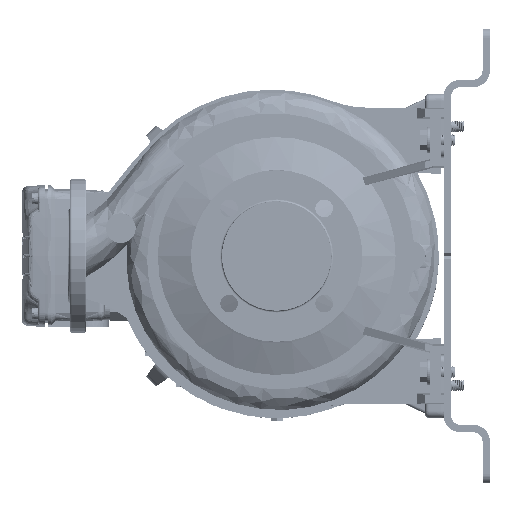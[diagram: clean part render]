
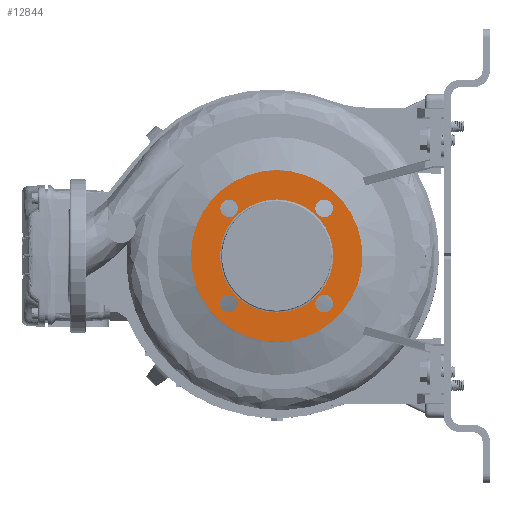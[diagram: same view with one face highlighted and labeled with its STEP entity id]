
A CAD part, left-side view. The second image highlights one B-rep face of the part: STEP entity #12844.
In plain terms, the highlighted planar face has unit normal (-1, 0, 0).
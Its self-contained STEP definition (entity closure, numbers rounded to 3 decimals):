
#1302 = AXIS2_PLACEMENT_3D ( 'NONE', #86856, #50359, #161048 ) ;
#2406 = FACE_BOUND ( 'NONE', #171912, .T. ) ;
#4221 = VERTEX_POINT ( 'NONE', #96912 ) ;
#4814 = AXIS2_PLACEMENT_3D ( 'NONE', #84363, #214510, #193853 ) ;
#5152 = VERTEX_POINT ( 'NONE', #94605 ) ;
#10151 = AXIS2_PLACEMENT_3D ( 'NONE', #157229, #183508, #16900 ) ;
#12479 = ORIENTED_EDGE ( 'NONE', *, *, #221740, .T. ) ;
#12844 = ADVANCED_FACE ( 'NONE', ( #114319, #44867, #137332, #77786, #2406, #134975 ), #188454, .T. ) ;
#13056 = CARTESIAN_POINT ( 'NONE',  ( -145.897, 282.788, 297.627 ) ) ;
#16900 = DIRECTION ( 'NONE',  ( 0., 0., 1. ) ) ;
#17526 = DIRECTION ( 'NONE',  ( 0., 1., 0. ) ) ;
#21430 = CARTESIAN_POINT ( 'NONE',  ( -145.897, 170.758, 297.627 ) ) ;
#22457 = CARTESIAN_POINT ( 'NONE',  ( -145.897, 282.788, 307.127 ) ) ;
#24881 = EDGE_CURVE ( 'NONE', #112761, #194698, #68688, .T. ) ;
#24924 = DIRECTION ( 'NONE',  ( -1., 0., 0. ) ) ;
#26604 = AXIS2_PLACEMENT_3D ( 'NONE', #49386, #197781, #33533 ) ;
#28585 = DIRECTION ( 'NONE',  ( 0., 1., 0. ) ) ;
#30476 = EDGE_LOOP ( 'NONE', ( #95687, #148516 ) ) ;
#30877 = CIRCLE ( 'NONE', #128076, 61. ) ;
#33533 = DIRECTION ( 'NONE',  ( 0., 0., -1. ) ) ;
#34839 = VERTEX_POINT ( 'NONE', #22457 ) ;
#37897 = ORIENTED_EDGE ( 'NONE', *, *, #42065, .F. ) ;
#38695 = AXIS2_PLACEMENT_3D ( 'NONE', #212147, #24924, #232775 ) ;
#42065 = EDGE_CURVE ( 'NONE', #167874, #34839, #117445, .T. ) ;
#43739 = CIRCLE ( 'NONE', #4814, 92.5 ) ;
#44867 = FACE_BOUND ( 'NONE', #145126, .T. ) ;
#49386 = CARTESIAN_POINT ( 'NONE',  ( -145.897, 180.258, 400.158 ) ) ;
#50359 = DIRECTION ( 'NONE',  ( 1., 0., 0. ) ) ;
#53864 = DIRECTION ( 'NONE',  ( 1., 0., 0. ) ) ;
#53904 = CARTESIAN_POINT ( 'NONE',  ( -145.897, 180.258, 390.658 ) ) ;
#55799 = VERTEX_POINT ( 'NONE', #119939 ) ;
#57204 = AXIS2_PLACEMENT_3D ( 'NONE', #102020, #120222, #140870 ) ;
#58103 = CIRCLE ( 'NONE', #77527, 9.5 ) ;
#63901 = EDGE_CURVE ( 'NONE', #34839, #167874, #204301, .T. ) ;
#64525 = VERTEX_POINT ( 'NONE', #21430 ) ;
#68688 = CIRCLE ( 'NONE', #177541, 92.5 ) ;
#69650 = EDGE_CURVE ( 'NONE', #4221, #137101, #135011, .T. ) ;
#74494 = DIRECTION ( 'NONE',  ( 0., 0., -1. ) ) ;
#77527 = AXIS2_PLACEMENT_3D ( 'NONE', #195708, #142145, #137355 ) ;
#77786 = FACE_BOUND ( 'NONE', #129260, .T. ) ;
#81037 = VERTEX_POINT ( 'NONE', #222716 ) ;
#84253 = CIRCLE ( 'NONE', #142597, 9.5 ) ;
#84363 = CARTESIAN_POINT ( 'NONE',  ( -145.897, 231.523, 348.893 ) ) ;
#86856 = CARTESIAN_POINT ( 'NONE',  ( -145.897, 231.523, 348.893 ) ) ;
#89332 = DIRECTION ( 'NONE',  ( -1., 0., 0. ) ) ;
#91552 = CARTESIAN_POINT ( 'NONE',  ( -145.897, 231.523, 348.893 ) ) ;
#91807 = ORIENTED_EDGE ( 'NONE', *, *, #63901, .F. ) ;
#93374 = EDGE_LOOP ( 'NONE', ( #91807, #37897 ) ) ;
#94605 = CARTESIAN_POINT ( 'NONE',  ( -145.897, 189.758, 297.627 ) ) ;
#95687 = ORIENTED_EDGE ( 'NONE', *, *, #136193, .F. ) ;
#96912 = CARTESIAN_POINT ( 'NONE',  ( -145.897, 292.288, 400.158 ) ) ;
#101292 = EDGE_CURVE ( 'NONE', #181219, #81037, #200478, .T. ) ;
#102020 = CARTESIAN_POINT ( 'NONE',  ( -145.897, 282.788, 400.158 ) ) ;
#103670 = ORIENTED_EDGE ( 'NONE', *, *, #203605, .F. ) ;
#106206 = CIRCLE ( 'NONE', #1302, 61. ) ;
#107932 = DIRECTION ( 'NONE',  ( -1., 0., 0. ) ) ;
#108930 = ORIENTED_EDGE ( 'NONE', *, *, #69650, .F. ) ;
#111052 = AXIS2_PLACEMENT_3D ( 'NONE', #151087, #220482, #74494 ) ;
#112761 = VERTEX_POINT ( 'NONE', #235428 ) ;
#113993 = ORIENTED_EDGE ( 'NONE', *, *, #193689, .F. ) ;
#114319 = FACE_BOUND ( 'NONE', #93374, .T. ) ;
#116449 = EDGE_CURVE ( 'NONE', #5152, #64525, #58103, .T. ) ;
#117445 = CIRCLE ( 'NONE', #132931, 9.5 ) ;
#119236 = CARTESIAN_POINT ( 'NONE',  ( -145.897, 282.788, 288.127 ) ) ;
#119784 = CIRCLE ( 'NONE', #26604, 9.5 ) ;
#119939 = CARTESIAN_POINT ( 'NONE',  ( -145.897, 292.523, 348.893 ) ) ;
#120222 = DIRECTION ( 'NONE',  ( -1., 0., 0. ) ) ;
#120965 = AXIS2_PLACEMENT_3D ( 'NONE', #235710, #143329, #232129 ) ;
#128065 = DIRECTION ( 'NONE',  ( 0., 1., 0. ) ) ;
#128076 = AXIS2_PLACEMENT_3D ( 'NONE', #140456, #159928, #28585 ) ;
#129260 = EDGE_LOOP ( 'NONE', ( #135936, #108930 ) ) ;
#130668 = EDGE_LOOP ( 'NONE', ( #113993, #139692 ) ) ;
#132931 = AXIS2_PLACEMENT_3D ( 'NONE', #13056, #107932, #163852 ) ;
#134975 = FACE_OUTER_BOUND ( 'NONE', #130668, .T. ) ;
#135011 = CIRCLE ( 'NONE', #57204, 9.5 ) ;
#135936 = ORIENTED_EDGE ( 'NONE', *, *, #137477, .F. ) ;
#136193 = EDGE_CURVE ( 'NONE', #81037, #181219, #119784, .T. ) ;
#137101 = VERTEX_POINT ( 'NONE', #206483 ) ;
#137332 = FACE_BOUND ( 'NONE', #30476, .T. ) ;
#137355 = DIRECTION ( 'NONE',  ( 0., 1., 0. ) ) ;
#137477 = EDGE_CURVE ( 'NONE', #137101, #4221, #170867, .T. ) ;
#137956 = VERTEX_POINT ( 'NONE', #142481 ) ;
#139692 = ORIENTED_EDGE ( 'NONE', *, *, #24881, .F. ) ;
#140456 = CARTESIAN_POINT ( 'NONE',  ( -145.897, 231.523, 348.893 ) ) ;
#140870 = DIRECTION ( 'NONE',  ( 0., -1., 0. ) ) ;
#142145 = DIRECTION ( 'NONE',  ( -1., 0., 0. ) ) ;
#142481 = CARTESIAN_POINT ( 'NONE',  ( -145.897, 170.523, 348.893 ) ) ;
#142597 = AXIS2_PLACEMENT_3D ( 'NONE', #147652, #89332, #17526 ) ;
#143329 = DIRECTION ( 'NONE',  ( -1., 0., 0. ) ) ;
#145126 = EDGE_LOOP ( 'NONE', ( #103670, #207998 ) ) ;
#147652 = CARTESIAN_POINT ( 'NONE',  ( -145.897, 180.258, 297.627 ) ) ;
#148516 = ORIENTED_EDGE ( 'NONE', *, *, #101292, .F. ) ;
#151087 = CARTESIAN_POINT ( 'NONE',  ( -145.897, 180.258, 400.158 ) ) ;
#157229 = CARTESIAN_POINT ( 'NONE',  ( -145.897, 282.788, 297.627 ) ) ;
#159928 = DIRECTION ( 'NONE',  ( 1., 0., 0. ) ) ;
#161048 = DIRECTION ( 'NONE',  ( 0., 1., 0. ) ) ;
#163852 = DIRECTION ( 'NONE',  ( 0., 0., 1. ) ) ;
#167874 = VERTEX_POINT ( 'NONE', #119236 ) ;
#170867 = CIRCLE ( 'NONE', #38695, 9.5 ) ;
#171912 = EDGE_LOOP ( 'NONE', ( #195331, #12479 ) ) ;
#177541 = AXIS2_PLACEMENT_3D ( 'NONE', #91552, #53864, #128065 ) ;
#181219 = VERTEX_POINT ( 'NONE', #53904 ) ;
#183508 = DIRECTION ( 'NONE',  ( -1., 0., 0. ) ) ;
#188454 = PLANE ( 'NONE',  #120965 ) ;
#192649 = CARTESIAN_POINT ( 'NONE',  ( -145.897, 324.023, 348.893 ) ) ;
#193689 = EDGE_CURVE ( 'NONE', #194698, #112761, #43739, .T. ) ;
#193853 = DIRECTION ( 'NONE',  ( 0., 1., 0. ) ) ;
#194698 = VERTEX_POINT ( 'NONE', #192649 ) ;
#195331 = ORIENTED_EDGE ( 'NONE', *, *, #227534, .T. ) ;
#195708 = CARTESIAN_POINT ( 'NONE',  ( -145.897, 180.258, 297.627 ) ) ;
#197781 = DIRECTION ( 'NONE',  ( -1., 0., 0. ) ) ;
#200478 = CIRCLE ( 'NONE', #111052, 9.5 ) ;
#203605 = EDGE_CURVE ( 'NONE', #64525, #5152, #84253, .T. ) ;
#204301 = CIRCLE ( 'NONE', #10151, 9.5 ) ;
#206483 = CARTESIAN_POINT ( 'NONE',  ( -145.897, 273.288, 400.158 ) ) ;
#207998 = ORIENTED_EDGE ( 'NONE', *, *, #116449, .F. ) ;
#212147 = CARTESIAN_POINT ( 'NONE',  ( -145.897, 282.788, 400.158 ) ) ;
#214510 = DIRECTION ( 'NONE',  ( 1., 0., 0. ) ) ;
#220482 = DIRECTION ( 'NONE',  ( -1., 0., 0. ) ) ;
#221740 = EDGE_CURVE ( 'NONE', #137956, #55799, #30877, .T. ) ;
#222716 = CARTESIAN_POINT ( 'NONE',  ( -145.897, 180.258, 409.658 ) ) ;
#227534 = EDGE_CURVE ( 'NONE', #55799, #137956, #106206, .T. ) ;
#232129 = DIRECTION ( 'NONE',  ( 0., -1., 0. ) ) ;
#232775 = DIRECTION ( 'NONE',  ( 0., -1., 0. ) ) ;
#235428 = CARTESIAN_POINT ( 'NONE',  ( -145.897, 139.023, 348.893 ) ) ;
#235710 = CARTESIAN_POINT ( 'NONE',  ( -145.897, 292.523, 348.893 ) ) ;
